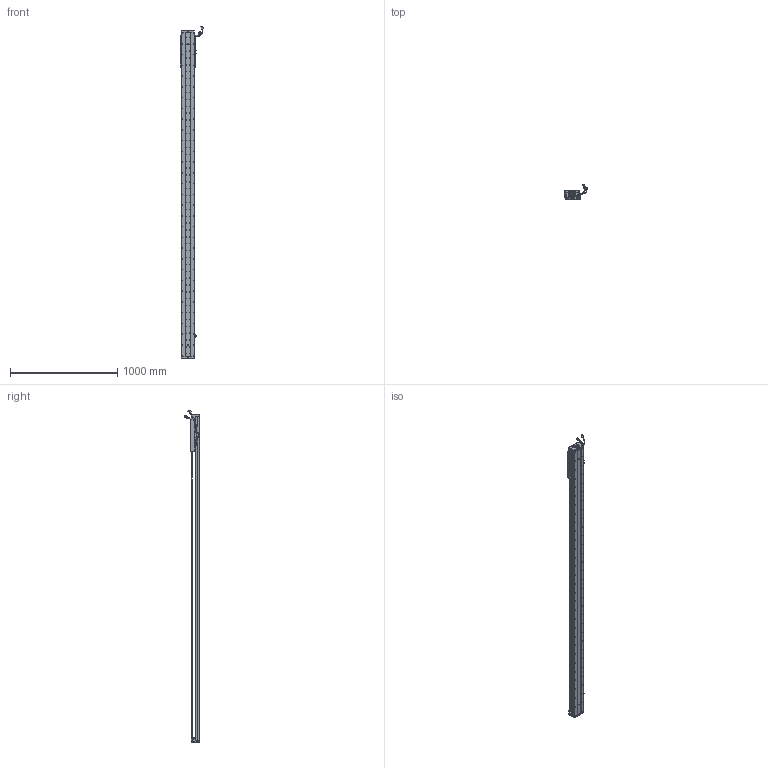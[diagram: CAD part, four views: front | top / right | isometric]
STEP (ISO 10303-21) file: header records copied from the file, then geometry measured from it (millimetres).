
FILE_DESCRIPTION (( 'STEP AP203' ), '1' );
FILE_NAME ('Z4-RY120D-1-L500-B-K.SLDASM_2650.step', '2021-05-17T06:11:09', ( '盈信电脑' ), ( '东莞市道滘镇水果街19号' ), 'SwSTEP 2.0', 'SolidWorks 2016', '' );
FILE_SCHEMA (( 'CONFIG_CONTROL_DESIGN' ));
Length unit declared in the file: millimetre
Products named in the file (37): 672嫖萇羲壽假蚾釱; 120-Z-臏賑輸盄裔(21遴); HARNESS; COVER-Part-1; LABEL; 140蚥薯蝶輸; SCALE; Z-RY120D詩湍奻揤裔; SCREW-M1.7; LABEL-Part-1; 080黍杅芛假蚾釱21遴; PSLH080_PSLF2; Z-120詩湍傷裔啣; SCREW-M1.6-2; SEAL; RY100FB-遵嫖萇覜茼え; 榋妏寠巭燃_暯_M2_2; SCREW-M1.7-1; SCREW-M1.6; SEAL-Part-1; HOLDER0; SHIELDPLATE; 140雄赽晤鎢ん堤盄; HARNESS-Part-2; COVER; PBU_SHEET; SCREW-M1.6-1; HARNESS-Part-1; SCALE-Part-2; Z-RY120D詩湍狟揤裔; SCALE-Part-1; 覜茼ん672; SCREW-M1.6-3; Z4-RY120铝滑块（21款）; Z4-RY120-L500詩湍100mm遵_2650; Z4-RY120D-1-L500-B-K.SLDASM_2650; Z4-RY120-500-倰第菁釱_2650
Assembly tree (43 placements, depth 4):
  Z4-RY120D-1-L500-B-K.SLDASM_2650
    Z4-RY120-500-倰第菁釱_2650
    覜茼ん672  x3
    672嫖萇羲壽假蚾釱  x2
    Z4-RY120铝滑块（21款）
    PSLH080_PSLF2
      SCALE
        SCALE-Part-1
        SCALE-Part-2
      HARNESS
        HARNESS-Part-1
        HARNESS-Part-2
      LABEL
        LABEL-Part-1
      COVER
        COVER-Part-1
      SEAL
        SEAL-Part-1
      榋妏寠巭燃_暯_M2_2
      SHIELDPLATE
      SCREW-M1.7
      SCREW-M1.7-1
      PBU_SHEET
      SCREW-M1.6
      SCREW-M1.6-1
      SCREW-M1.6-2
      SCREW-M1.6-3
      HOLDER0
    080黍杅芛假蚾釱21遴
    120-Z-臏賑輸盄裔(21遴)
    140雄赽晤鎢ん堤盄
    140蚥薯蝶輸  x2
    RY100FB-遵嫖萇覜茼え
    Z-120詩湍傷裔啣  x2
    Z-RY120D詩湍奻揤裔  x2
    Z-RY120D詩湍狟揤裔  x2
    Z4-RY120-L500詩湍100mm遵_2650
Bounding box: 222.83 x 140.94 x 3088.99 mm (x, y, z)
Volume: 7287221.7 mm3; surface area: 2528303.4 mm2
Topology: 38 solids, 38 shells, 3965 faces, 11412 edges, 7200 vertices
Faces by surface type: cylinder 2140, plane 1289, cone 414, torus 69, bspline 53
Entity records: 136045 total; most frequent: CARTESIAN_POINT 42638, ORIENTED_EDGE 19520, DIRECTION 17658, EDGE_CURVE 9760, AXIS2_PLACEMENT_3D 6546, VERTEX_POINT 6320, VECTOR 4566, LINE 4566
